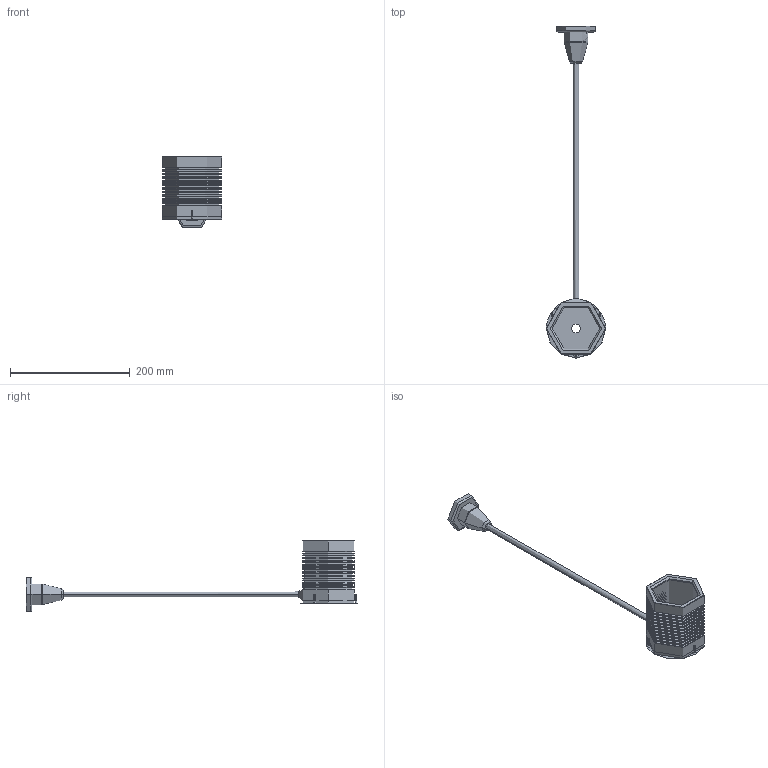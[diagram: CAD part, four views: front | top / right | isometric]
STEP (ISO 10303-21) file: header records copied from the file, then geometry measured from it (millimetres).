
FILE_DESCRIPTION(('STEP AP214'),'1');
FILE_NAME('C:/Datensicherung F/3D Zeichnungen/Konstruktionszeichnungen/tmp0.STEP','2025-12-16T12:25:07',(' '),(' '),'Spatial InterOp 3D',' ',' ');
FILE_SCHEMA(('automotive_design'));
Length unit declared in the file: millimetre
Products named in the file (3): 1; 2
Bounding box: 100 x 555.49 x 118.15 mm (x, y, z)
Topology: 2 solids, 25 shells, 791 faces, 1620 edges, 884 vertices
Faces by surface type: cylinder 387, cone 340, plane 54, torus 6, bspline 4
Full cylindrical faces by diameter (mm): 6 x10, 10 x8
Entity records: 41829 total; most frequent: CARTESIAN_POINT 18392, DIRECTION 3953, ORIENTED_EDGE 3310, EDGE_CURVE 1655, AXIS2_PLACEMENT_3D 1601, VERTEX_POINT 899, EDGE_LOOP 832, CIRCLE 811
